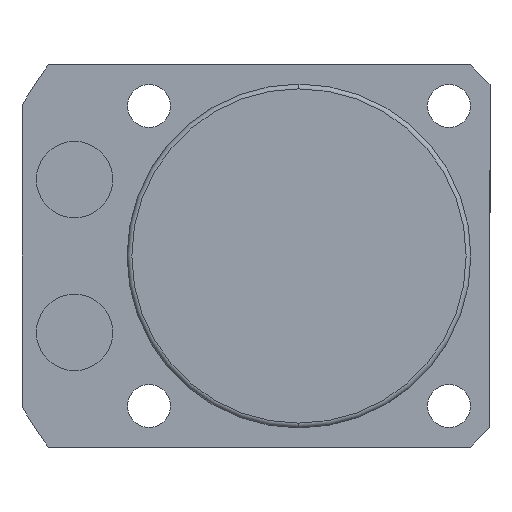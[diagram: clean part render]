
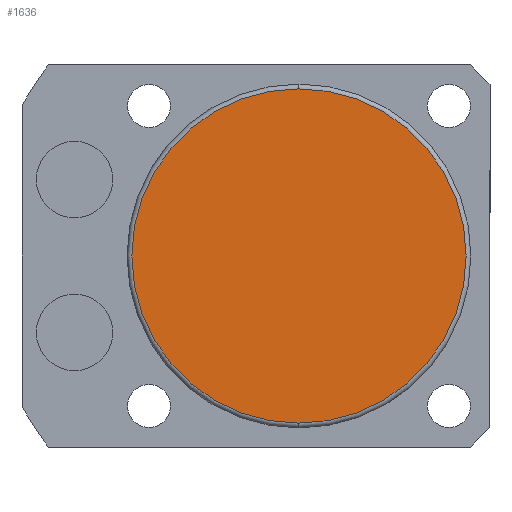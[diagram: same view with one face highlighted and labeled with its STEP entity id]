
A CAD part, front view. The second image highlights one B-rep face of the part: STEP entity #1636.
In plain terms, the highlighted planar face has unit normal (0, -1, 0).
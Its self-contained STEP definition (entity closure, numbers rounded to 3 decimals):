
#94 = DIRECTION ( 'NONE',  ( 0., -1., 0. ) ) ;
#184 = CIRCLE ( 'NONE', #2307, 17.5 ) ;
#193 = ORIENTED_EDGE ( 'NONE', *, *, #1026, .T. ) ;
#263 = AXIS2_PLACEMENT_3D ( 'NONE', #2257, #751, #778 ) ;
#366 = CARTESIAN_POINT ( 'NONE',  ( 0., -95.5, -17.5 ) ) ;
#380 = DIRECTION ( 'NONE',  ( 0., 0., -1. ) ) ;
#444 = CIRCLE ( 'NONE', #263, 17.5 ) ;
#514 = PLANE ( 'NONE',  #1094 ) ;
#751 = DIRECTION ( 'NONE',  ( 0., -1., 0. ) ) ;
#778 = DIRECTION ( 'NONE',  ( 0., 0., -1. ) ) ;
#817 = FACE_OUTER_BOUND ( 'NONE', #2549, .T. ) ;
#906 = EDGE_CURVE ( 'NONE', #2314, #1341, #444, .T. ) ;
#1026 = EDGE_CURVE ( 'NONE', #1341, #2314, #184, .T. ) ;
#1094 = AXIS2_PLACEMENT_3D ( 'NONE', #2179, #94, #2592 ) ;
#1341 = VERTEX_POINT ( 'NONE', #1497 ) ;
#1363 = CARTESIAN_POINT ( 'NONE',  ( 0., -95.5, 0. ) ) ;
#1497 = CARTESIAN_POINT ( 'NONE',  ( 0., -95.5, 17.5 ) ) ;
#1636 = ADVANCED_FACE ( 'NONE', ( #817 ), #514, .T. ) ;
#2179 = CARTESIAN_POINT ( 'NONE',  ( 0., -95.5, 0. ) ) ;
#2228 = DIRECTION ( 'NONE',  ( 0., -1., 0. ) ) ;
#2257 = CARTESIAN_POINT ( 'NONE',  ( 0., -95.5, 0. ) ) ;
#2307 = AXIS2_PLACEMENT_3D ( 'NONE', #1363, #2228, #380 ) ;
#2314 = VERTEX_POINT ( 'NONE', #366 ) ;
#2390 = ORIENTED_EDGE ( 'NONE', *, *, #906, .T. ) ;
#2549 = EDGE_LOOP ( 'NONE', ( #2390, #193 ) ) ;
#2592 = DIRECTION ( 'NONE',  ( 0., 0., -1. ) ) ;
